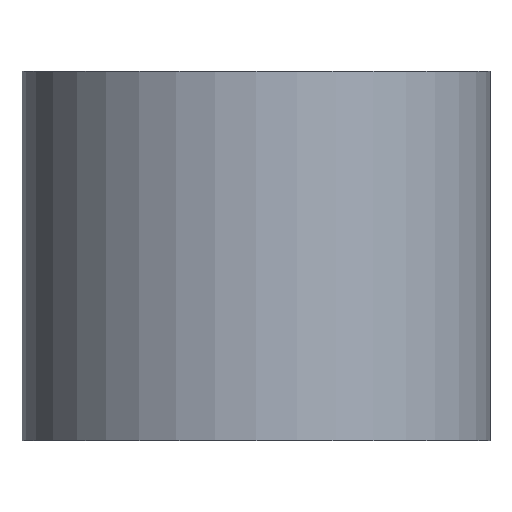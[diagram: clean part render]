
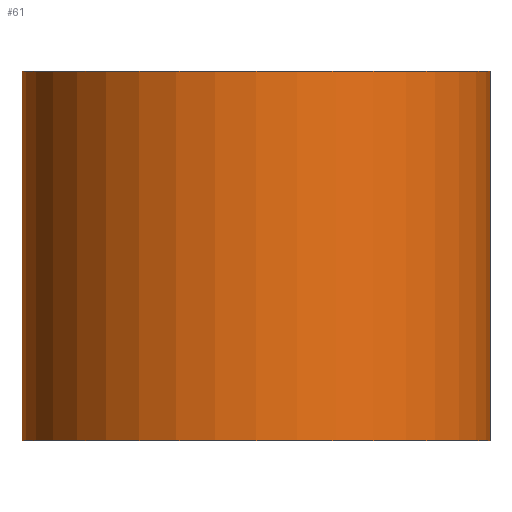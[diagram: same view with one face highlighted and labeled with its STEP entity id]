
A CAD part, front view. The second image highlights one B-rep face of the part: STEP entity #61.
In plain terms, the highlighted cylindrical face has radius 5.065 mm (diameter 10.13 mm), a partial arc.
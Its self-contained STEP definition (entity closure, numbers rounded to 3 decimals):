
#8 = VERTEX_POINT ( 'NONE', #203 ) ;
#11 = AXIS2_PLACEMENT_3D ( 'NONE', #191, #71, #235 ) ;
#12 = DIRECTION ( 'NONE',  ( -1., 0., 0. ) ) ;
#20 = ORIENTED_EDGE ( 'NONE', *, *, #107, .F. ) ;
#24 = CARTESIAN_POINT ( 'NONE',  ( 5.065, 0., 0. ) ) ;
#35 = CIRCLE ( 'NONE', #88, 5.065 ) ;
#45 = LINE ( 'NONE', #162, #210 ) ;
#59 = CARTESIAN_POINT ( 'NONE',  ( 0., 0., 8. ) ) ;
#61 = ADVANCED_FACE ( 'NONE', ( #127 ), #242, .T. ) ;
#71 = DIRECTION ( 'NONE',  ( 0., 0., 1. ) ) ;
#74 = ORIENTED_EDGE ( 'NONE', *, *, #174, .F. ) ;
#75 = VERTEX_POINT ( 'NONE', #126 ) ;
#88 = AXIS2_PLACEMENT_3D ( 'NONE', #59, #184, #116 ) ;
#101 = DIRECTION ( 'NONE',  ( 0., 0., -1. ) ) ;
#107 = EDGE_CURVE ( 'NONE', #8, #120, #45, .T. ) ;
#116 = DIRECTION ( 'NONE',  ( 1., 0., 0. ) ) ;
#120 = VERTEX_POINT ( 'NONE', #24 ) ;
#125 = CARTESIAN_POINT ( 'NONE',  ( -5.065, 0., 0. ) ) ;
#126 = CARTESIAN_POINT ( 'NONE',  ( -5.065, 0., 8. ) ) ;
#127 = FACE_OUTER_BOUND ( 'NONE', #142, .T. ) ;
#130 = VECTOR ( 'NONE', #143, 1000. ) ;
#133 = VERTEX_POINT ( 'NONE', #125 ) ;
#142 = EDGE_LOOP ( 'NONE', ( #20, #74, #213, #158 ) ) ;
#143 = DIRECTION ( 'NONE',  ( 0., 0., -1. ) ) ;
#155 = AXIS2_PLACEMENT_3D ( 'NONE', #234, #101, #12 ) ;
#158 = ORIENTED_EDGE ( 'NONE', *, *, #223, .T. ) ;
#162 = CARTESIAN_POINT ( 'NONE',  ( 5.065, 0., 8. ) ) ;
#164 = EDGE_CURVE ( 'NONE', #75, #133, #207, .T. ) ;
#174 = EDGE_CURVE ( 'NONE', #75, #8, #35, .T. ) ;
#182 = CARTESIAN_POINT ( 'NONE',  ( -5.065, 0., 8. ) ) ;
#184 = DIRECTION ( 'NONE',  ( 0., 0., 1. ) ) ;
#191 = CARTESIAN_POINT ( 'NONE',  ( 0., 0., 0. ) ) ;
#203 = CARTESIAN_POINT ( 'NONE',  ( 5.065, 0., 8. ) ) ;
#207 = LINE ( 'NONE', #182, #130 ) ;
#210 = VECTOR ( 'NONE', #249, 1000. ) ;
#213 = ORIENTED_EDGE ( 'NONE', *, *, #164, .T. ) ;
#223 = EDGE_CURVE ( 'NONE', #133, #120, #226, .T. ) ;
#226 = CIRCLE ( 'NONE', #11, 5.065 ) ;
#234 = CARTESIAN_POINT ( 'NONE',  ( 0., 0., 8. ) ) ;
#235 = DIRECTION ( 'NONE',  ( 1., 0., 0. ) ) ;
#242 = CYLINDRICAL_SURFACE ( 'NONE', #155, 5.065 ) ;
#249 = DIRECTION ( 'NONE',  ( 0., 0., -1. ) ) ;
